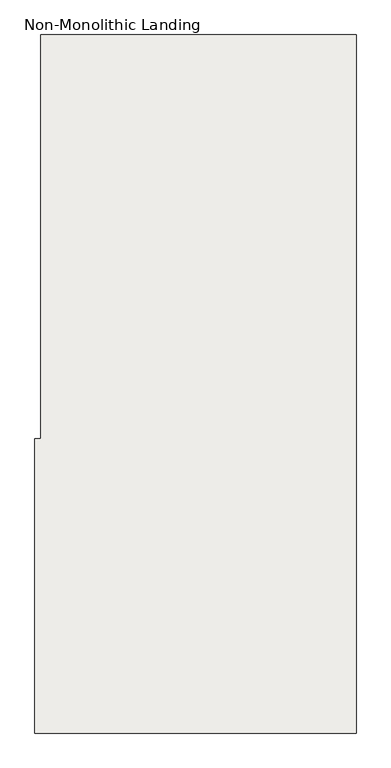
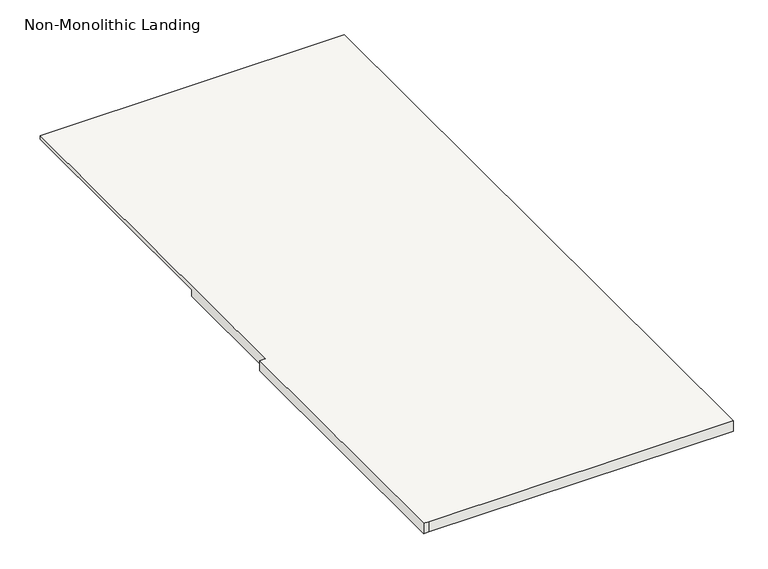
"""IFC4 building model written with IfcOpenShell, lengths in millimetres: slab geometry, Non-Monolithic Landing."""

from ifc_helpers import new_model, si_unit, origin, place, context, project, spatial, faceted_brep, source, transform, mapped, element, save


def non_monolithic_landing_56880b86(model_context):
    return source(origin(), model_context, "Body", "Brep", [
        faceted_brep([(13373.1000296, 29527.4998803, 1370.2195652), (13398.5000296, 29527.4998803, 1344.8195652), (13398.5000296, 28295.6058669, 1344.8195652), (13373.1000296, 28295.6058669, 1370.2195652), (13373.1000296, 27698.7058721, 1389.2695652), (13347.7000296, 27698.7058721, 1389.2695652), (13347.7000296, 26365.9151067, 1389.2695652), (13373.1000296, 26365.9151067, 1389.2695652), (14801.8500296, 26365.9151067, 1389.2695652), (14801.8500296, 29527.4998803, 1389.2695652), (13373.1000296, 29527.4998803, 1389.2695652), (13398.5000296, 28295.6058669, 1338.4695652), (13398.5000296, 29527.4998803, 1338.4695652), (14801.8500296, 29527.4998803, 1338.4695652), (14801.8500296, 26365.9151067, 1338.4695652), (13373.1000296, 26365.9151067, 1338.4695652), (13347.7000296, 26365.9151067, 1338.4695652), (13347.7000296, 27698.7058721, 1338.4695652), (13373.1000296, 27698.7058721, 1338.4695652), (13373.1000296, 28295.6058669, 1338.4695652)], [[[0, 1, 2, 3]], [[4, 5, 6, 7, 8, 9, 10]], [[11, 12, 13, 14, 15, 16, 17, 18, 19]], [[12, 11, 2, 1]], [[11, 19, 3, 2]], [[4, 10, 0, 3, 19, 18]], [[5, 4, 18, 17]], [[6, 5, 17, 16]], [[7, 6, 16, 15]], [[8, 7, 15, 14]], [[9, 8, 14, 13]], [[10, 9, 13, 12, 1, 0]]]),
    ])


if __name__ == "__main__":
    model = new_model("IFC4")
    model_context = context("Model", 3, world=origin())
    ifc_project = project(units=[si_unit("LENGTHUNIT", "METRE", prefix="MILLI")], contexts=[model_context])
    site = spatial("IfcSite", under=ifc_project)
    building = spatial("IfcBuilding", under=site)
    placement = place(None, origin())
    non_monolithic_landing_shape = non_monolithic_landing_56880b86(model_context)
    element("IfcSlab", 1, ObjectType="Non-Monolithic Landing", at=placement, inside=building, context=model_context, shape_type="MappedRepresentation", body=[
        mapped(non_monolithic_landing_shape, transform((0.0, 0.0, 0.0), x_axis=(1.0, 0.0, 0.0), y_axis=(0.0, 1.0, 0.0), z_axis=(0.0, 0.0, 1.0))),
    ])
    save(model, "model.ifc")
